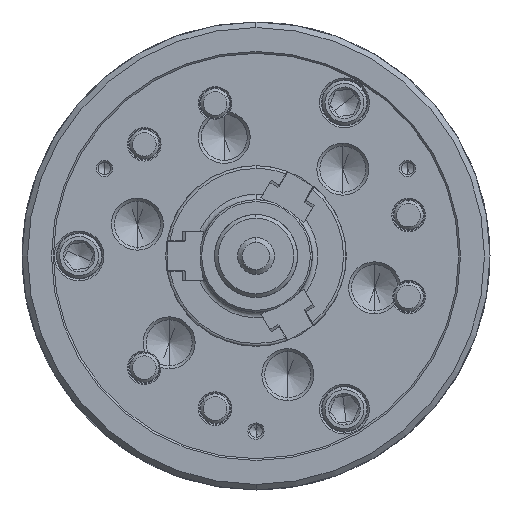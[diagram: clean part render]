
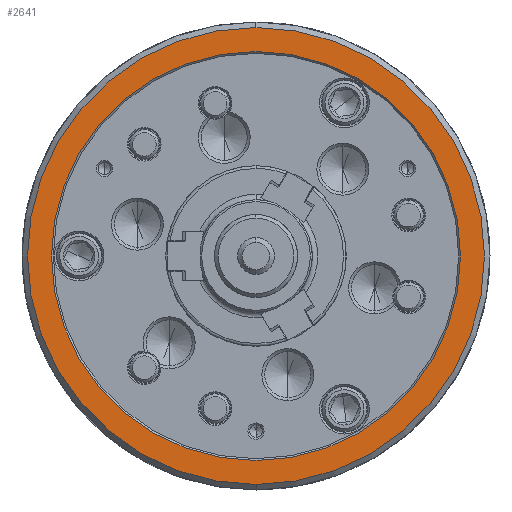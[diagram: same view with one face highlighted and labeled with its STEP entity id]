
A CAD part, left-side view. The second image highlights one B-rep face of the part: STEP entity #2641.
In plain terms, the highlighted planar face has unit normal (-1, 0, 0).
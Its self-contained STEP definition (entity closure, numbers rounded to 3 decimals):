
#565 = CARTESIAN_POINT ( 'NONE',  ( -89., 0., 0. ) ) ;
#2641 = ADVANCED_FACE ( 'NONE', ( #22701, #54132 ), #86598, .F. ) ;
#8243 = EDGE_CURVE ( 'NONE', #68439, #70490, #55929, .T. ) ;
#9423 = EDGE_LOOP ( 'NONE', ( #92338, #99008 ) ) ;
#9456 = AXIS2_PLACEMENT_3D ( 'NONE', #87112, #14199, #95640 ) ;
#10314 = CARTESIAN_POINT ( 'NONE',  ( -89., 0., 124. ) ) ;
#10685 = EDGE_CURVE ( 'NONE', #14536, #16304, #79715, .T. ) ;
#14199 = DIRECTION ( 'NONE',  ( 1., 0., 0. ) ) ;
#14536 = VERTEX_POINT ( 'NONE', #35644 ) ;
#16304 = VERTEX_POINT ( 'NONE', #52972 ) ;
#16709 = EDGE_CURVE ( 'NONE', #16304, #14536, #71909, .T. ) ;
#18513 = DIRECTION ( 'NONE',  ( 0., 0., -1. ) ) ;
#22701 = FACE_OUTER_BOUND ( 'NONE', #9423, .T. ) ;
#23019 = DIRECTION ( 'NONE',  ( 0., 0., -1. ) ) ;
#30770 = ORIENTED_EDGE ( 'NONE', *, *, #16709, .T. ) ;
#32747 = CIRCLE ( 'NONE', #83754, 124. ) ;
#33013 = DIRECTION ( 'NONE',  ( 1., 0., 0. ) ) ;
#35456 = AXIS2_PLACEMENT_3D ( 'NONE', #565, #33013, #18513 ) ;
#35644 = CARTESIAN_POINT ( 'NONE',  ( -89., 0., -111. ) ) ;
#41017 = CARTESIAN_POINT ( 'NONE',  ( -89., 0., -124. ) ) ;
#47529 = CARTESIAN_POINT ( 'NONE',  ( -89., 0., 0. ) ) ;
#48071 = AXIS2_PLACEMENT_3D ( 'NONE', #70931, #94373, #23019 ) ;
#52972 = CARTESIAN_POINT ( 'NONE',  ( -89., 0., 111. ) ) ;
#54132 = FACE_BOUND ( 'NONE', #74064, .T. ) ;
#55929 = CIRCLE ( 'NONE', #35456, 124. ) ;
#68439 = VERTEX_POINT ( 'NONE', #10314 ) ;
#70490 = VERTEX_POINT ( 'NONE', #41017 ) ;
#70931 = CARTESIAN_POINT ( 'NONE',  ( -89., 0., 0. ) ) ;
#71909 = CIRCLE ( 'NONE', #48071, 111. ) ;
#71978 = DIRECTION ( 'NONE',  ( 0., 0., -1. ) ) ;
#73936 = ORIENTED_EDGE ( 'NONE', *, *, #10685, .T. ) ;
#74064 = EDGE_LOOP ( 'NONE', ( #30770, #73936 ) ) ;
#79715 = CIRCLE ( 'NONE', #103566, 111. ) ;
#79989 = DIRECTION ( 'NONE',  ( 1., 0., 0. ) ) ;
#83754 = AXIS2_PLACEMENT_3D ( 'NONE', #85714, #104188, #92676 ) ;
#85714 = CARTESIAN_POINT ( 'NONE',  ( -89., 0., 0. ) ) ;
#86598 = PLANE ( 'NONE',  #9456 ) ;
#87112 = CARTESIAN_POINT ( 'NONE',  ( -89., -124., 0. ) ) ;
#92338 = ORIENTED_EDGE ( 'NONE', *, *, #94628, .F. ) ;
#92676 = DIRECTION ( 'NONE',  ( 0., 0., -1. ) ) ;
#94373 = DIRECTION ( 'NONE',  ( 1., 0., 0. ) ) ;
#94628 = EDGE_CURVE ( 'NONE', #70490, #68439, #32747, .T. ) ;
#95640 = DIRECTION ( 'NONE',  ( 0., 0., -1. ) ) ;
#99008 = ORIENTED_EDGE ( 'NONE', *, *, #8243, .F. ) ;
#103566 = AXIS2_PLACEMENT_3D ( 'NONE', #47529, #79989, #71978 ) ;
#104188 = DIRECTION ( 'NONE',  ( 1., 0., 0. ) ) ;
